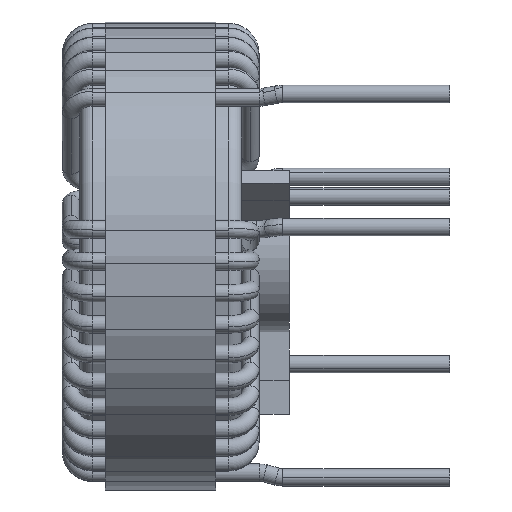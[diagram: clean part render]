
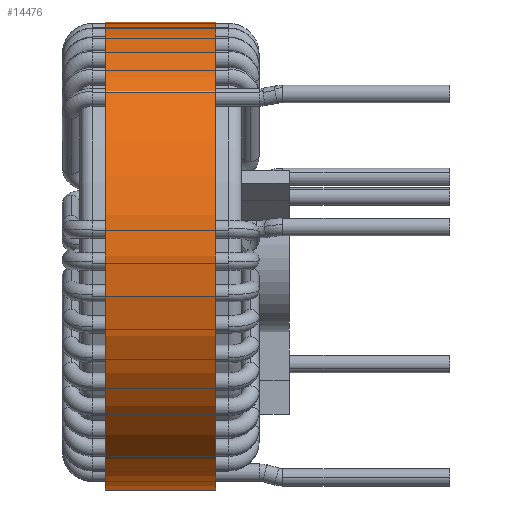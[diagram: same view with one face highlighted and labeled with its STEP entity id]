
A CAD part, left-side view. The second image highlights one B-rep face of the part: STEP entity #14476.
In plain terms, the highlighted cylindrical face has radius 27.503 mm (diameter 55.005 mm), a partial arc.
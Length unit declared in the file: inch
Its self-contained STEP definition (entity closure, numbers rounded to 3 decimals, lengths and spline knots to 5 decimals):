
#1515 = CARTESIAN_POINT ( 'NONE',  ( 0., 0.11821, -1.08278 ) ) ;
#1727 = DIRECTION ( 'NONE',  ( 0., 1., 0. ) ) ;
#1828 = ORIENTED_EDGE ( 'NONE', *, *, #17184, .F. ) ;
#2046 = CARTESIAN_POINT ( 'NONE',  ( 0., 0.63002, -1.08278 ) ) ;
#2086 = DIRECTION ( 'NONE',  ( 0., 0., 1. ) ) ;
#2753 = DIRECTION ( 'NONE',  ( 0., -1., 0. ) ) ;
#2777 = VECTOR ( 'NONE', #5003, 39.37008 ) ;
#4696 = LINE ( 'NONE', #2046, #11759 ) ;
#5003 = DIRECTION ( 'NONE',  ( 0., -1., 0. ) ) ;
#5393 = EDGE_CURVE ( 'NONE', #26502, #6774, #6738, .T. ) ;
#5881 = CARTESIAN_POINT ( 'NONE',  ( 0., 0.63002, 1.08278 ) ) ;
#6563 = CARTESIAN_POINT ( 'NONE',  ( 0., 0.63002, 0. ) ) ;
#6738 = LINE ( 'NONE', #5881, #2777 ) ;
#6774 = VERTEX_POINT ( 'NONE', #7045 ) ;
#6788 = ORIENTED_EDGE ( 'NONE', *, *, #5393, .F. ) ;
#7045 = CARTESIAN_POINT ( 'NONE',  ( 0., 0.11821, 1.08278 ) ) ;
#7085 = CIRCLE ( 'NONE', #12190, 1.08278 ) ;
#7918 = CARTESIAN_POINT ( 'NONE',  ( 0., 0.63002, -1.08278 ) ) ;
#7972 = CARTESIAN_POINT ( 'NONE',  ( 0., 0.63002, 0. ) ) ;
#8544 = ORIENTED_EDGE ( 'NONE', *, *, #24562, .T. ) ;
#9474 = DIRECTION ( 'NONE',  ( 0., -1., 0. ) ) ;
#10508 = AXIS2_PLACEMENT_3D ( 'NONE', #6563, #1727, #13815 ) ;
#11759 = VECTOR ( 'NONE', #9474, 39.37008 ) ;
#12190 = AXIS2_PLACEMENT_3D ( 'NONE', #26643, #21847, #2086 ) ;
#12432 = VERTEX_POINT ( 'NONE', #7918 ) ;
#13815 = DIRECTION ( 'NONE',  ( 0., 0., 1. ) ) ;
#14299 = EDGE_CURVE ( 'NONE', #12432, #14930, #4696, .T. ) ;
#14476 = ADVANCED_FACE ( 'NONE', ( #15638 ), #21637, .T. ) ;
#14930 = VERTEX_POINT ( 'NONE', #1515 ) ;
#15197 = CIRCLE ( 'NONE', #10508, 1.08278 ) ;
#15638 = FACE_OUTER_BOUND ( 'NONE', #18915, .T. ) ;
#17184 = EDGE_CURVE ( 'NONE', #12432, #26502, #15197, .T. ) ;
#18915 = EDGE_LOOP ( 'NONE', ( #6788, #1828, #26022, #8544 ) ) ;
#19911 = DIRECTION ( 'NONE',  ( 0., 0., -1. ) ) ;
#21637 = CYLINDRICAL_SURFACE ( 'NONE', #25039, 1.08278 ) ;
#21847 = DIRECTION ( 'NONE',  ( 0., 1., 0. ) ) ;
#24171 = CARTESIAN_POINT ( 'NONE',  ( 0., 0.63002, 1.08278 ) ) ;
#24562 = EDGE_CURVE ( 'NONE', #14930, #6774, #7085, .T. ) ;
#25039 = AXIS2_PLACEMENT_3D ( 'NONE', #7972, #2753, #19911 ) ;
#26022 = ORIENTED_EDGE ( 'NONE', *, *, #14299, .T. ) ;
#26502 = VERTEX_POINT ( 'NONE', #24171 ) ;
#26643 = CARTESIAN_POINT ( 'NONE',  ( 0., 0.11821, 0. ) ) ;
